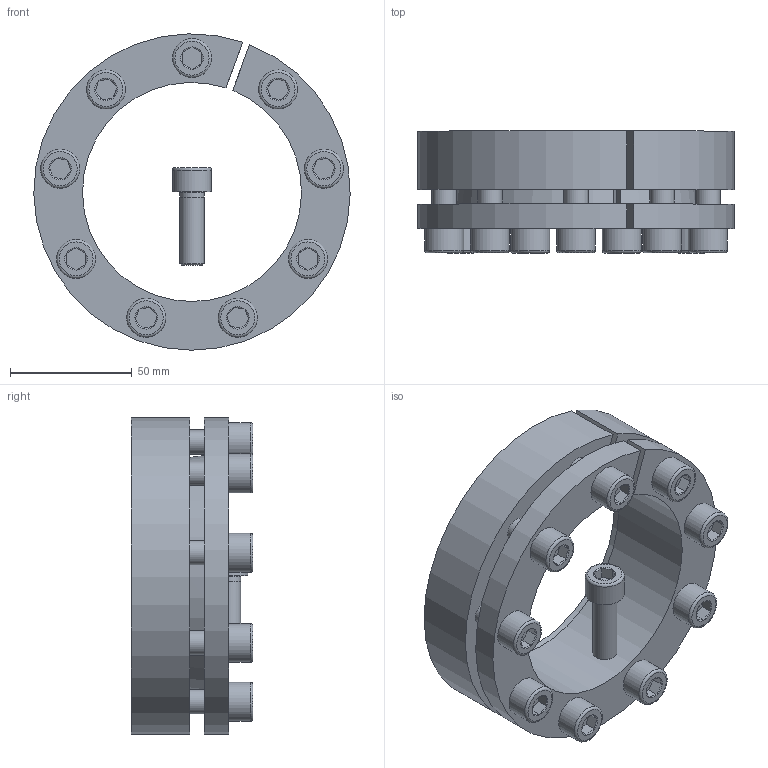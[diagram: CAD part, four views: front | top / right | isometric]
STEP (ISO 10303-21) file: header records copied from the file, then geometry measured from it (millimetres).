
FILE_DESCRIPTION( ( 'Unknown' ), '1' );
FILE_NAME( 'C:/Dokumente und Einstellungen/Sven/Desktop/homepage/cad - homepage/KBS13/KBS 13 - 90 x 130.stp', 'Unknown', ( 'Unknown' ), ( 'Unknown' ), 'XStep 1.0', 'Unknown', ' ' );
FILE_SCHEMA( ( 'automotive_design' ) );
Length unit declared in the file: millimetre
Products named in the file (3): Assem1; KBS 13 - 90 x 130; ISO EN DIN 4762 M10x30
Bounding box: 129.99 x 50 x 129.99 mm (x, y, z)
Volume: 471788.9 mm3; surface area: 140075.1 mm2
Topology: 12 solids, 12 shells, 310 faces, 634 edges, 388 vertices
Faces by surface type: plane 134, cylinder 82, cone 74, torus 20
Full cylindrical faces by diameter (mm): 9 x10, 10 x56, 16 x10
Entity records: 1848 total; most frequent: CARTESIAN_POINT 304, DIRECTION 286, ORIENTED_EDGE 202, AXIS2_PLACEMENT_3D 129, EDGE_LOOP 120, EDGE_CURVE 101, FACE_OUTER_BOUND 79, VERTEX_POINT 79
